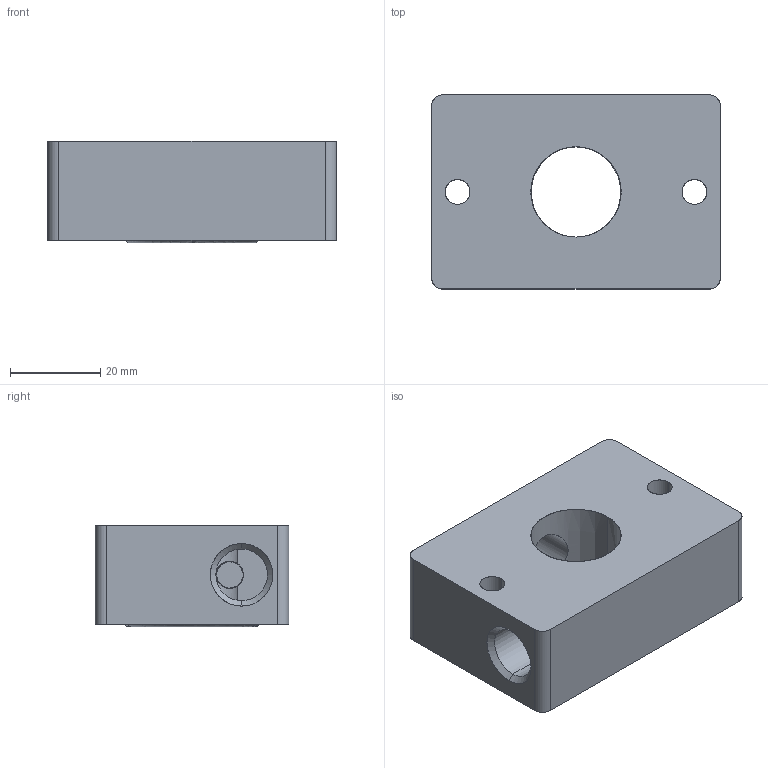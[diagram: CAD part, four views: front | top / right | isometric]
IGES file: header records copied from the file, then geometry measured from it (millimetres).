
Start section: SolidWorks IGES file using analytic representation for surfaces
Global section: file name: C:\Documents and Settings\Administrator\桌面\ZGUFR02SB.IGS,1; native system: 5HSolidWorks 2012; preprocessor: SolidWorks 2012; author: Administrator; date: 140702.174510; units: millimetre
Bounding box: 64 x 43 x 22.52 mm (x, y, z)
Surface area: 13706.6 mm2 (no closed solid volume)
Topology: 0 solids, 0 shells, 37 faces, 919 edges, 1013 vertices
Faces by surface type: revolution 25, bspline 12
